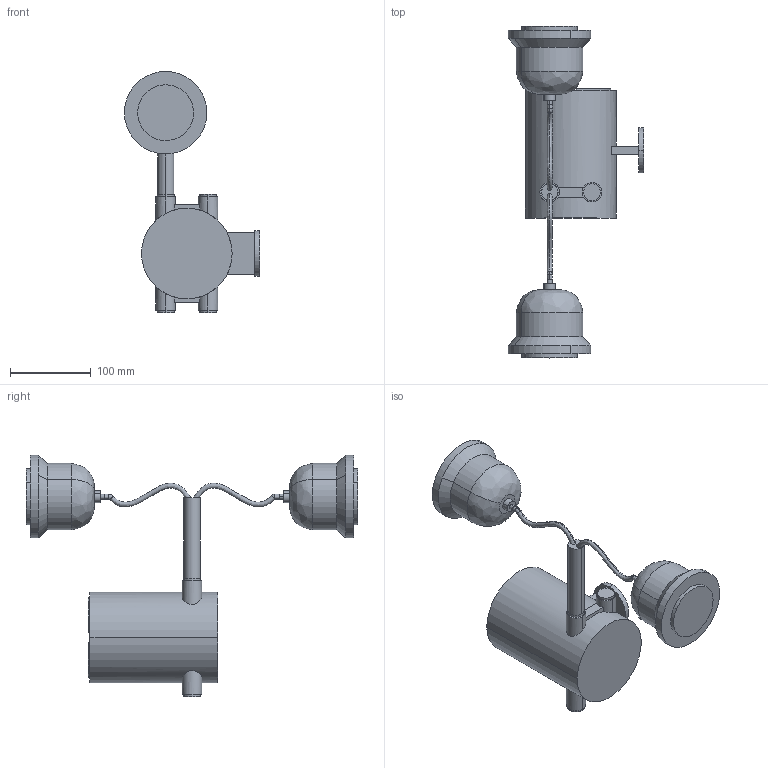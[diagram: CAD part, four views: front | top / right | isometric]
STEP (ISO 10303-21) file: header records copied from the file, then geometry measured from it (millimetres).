
FILE_DESCRIPTION((''),'2;1');
FILE_NAME('ASM0008_ASM','2025-12-29T16:01:40',('28740194'),(''),'CREO PARAMETRIC BY PTC INC, 2024063','CREO PARAMETRIC BY PTC INC, 2024063','');
FILE_SCHEMA(('CONFIG_CONTROL_DESIGN'));
Length unit declared in the file: millimetre
Products named in the file (4): KUM-2600-1; 00; PRT0067; ASM0008_ASM
Assembly tree (3 placements, depth 2):
  ASM0008_ASM
    KUM-2600-1
    00
    PRT0067
Bounding box: 167.17 x 410.17 x 298.01 mm (x, y, z)
Volume: 2561475.8 mm3; surface area: 172799.2 mm2
Topology: 3 solids, 3 shells, 506 faces, 1371 edges, 908 vertices
Faces by surface type: plane 434, cylinder 52, bspline 16, cone 4
Entity records: 17884 total; most frequent: CARTESIAN_POINT 5011, ORIENTED_EDGE 2742, DIRECTION 2455, EDGE_CURVE 1371, VECTOR 1217, LINE 1217, VERTEX_POINT 908, AXIS2_PLACEMENT_3D 619
